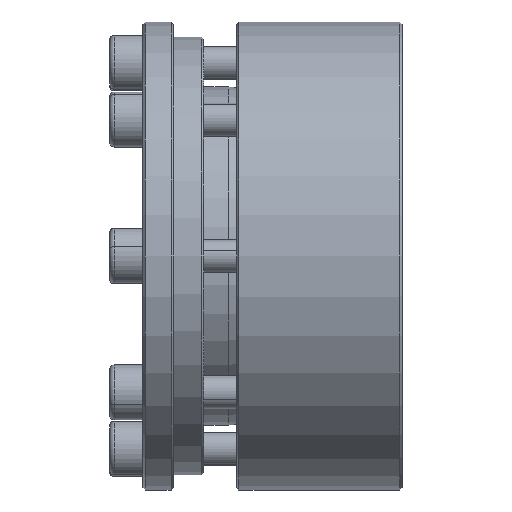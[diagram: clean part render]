
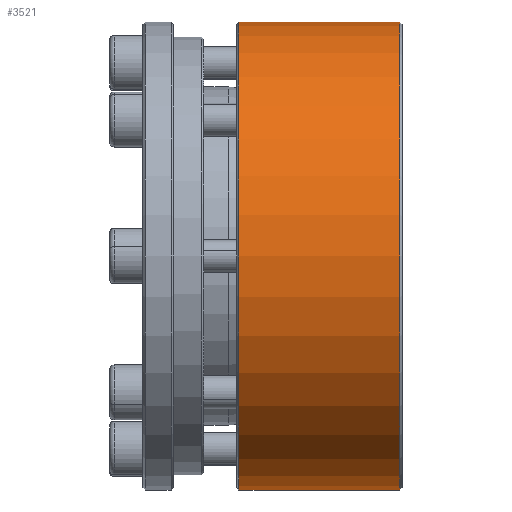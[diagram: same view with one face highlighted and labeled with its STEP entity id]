
A CAD part, front view. The second image highlights one B-rep face of the part: STEP entity #3521.
In plain terms, the highlighted cylindrical face has radius 42.45 mm (diameter 84.9 mm), a partial arc.
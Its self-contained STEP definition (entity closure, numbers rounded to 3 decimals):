
#183 = EDGE_CURVE ( 'NONE', #6408, #2642, #1449, .T. ) ;
#787 = VECTOR ( 'NONE', #8265, 1000. ) ;
#864 = DIRECTION ( 'NONE',  ( -1., 0., 0. ) ) ;
#929 = VERTEX_POINT ( 'NONE', #6592 ) ;
#1186 = ORIENTED_EDGE ( 'NONE', *, *, #3775, .F. ) ;
#1449 = LINE ( 'NONE', #5447, #5458 ) ;
#1734 = ORIENTED_EDGE ( 'NONE', *, *, #183, .T. ) ;
#1768 = FACE_OUTER_BOUND ( 'NONE', #6640, .T. ) ;
#1920 = EDGE_CURVE ( 'NONE', #7134, #6408, #2498, .T. ) ;
#1951 = CARTESIAN_POINT ( 'NONE',  ( -59.166, 26.04, -42.45 ) ) ;
#1975 = CARTESIAN_POINT ( 'NONE',  ( -88.366, 26.04, 0. ) ) ;
#2078 = AXIS2_PLACEMENT_3D ( 'NONE', #2565, #4567, #5889 ) ;
#2275 = CARTESIAN_POINT ( 'NONE',  ( -59.166, 26.04, 42.45 ) ) ;
#2327 = EDGE_CURVE ( 'NONE', #2642, #929, #8521, .T. ) ;
#2498 = CIRCLE ( 'NONE', #5629, 42.45 ) ;
#2565 = CARTESIAN_POINT ( 'NONE',  ( -88.766, 26.04, 0. ) ) ;
#2642 = VERTEX_POINT ( 'NONE', #7892 ) ;
#3521 = ADVANCED_FACE ( 'NONE', ( #1768 ), #5189, .T. ) ;
#3775 = EDGE_CURVE ( 'NONE', #7134, #929, #6257, .T. ) ;
#4567 = DIRECTION ( 'NONE',  ( -1., 0., 0. ) ) ;
#4644 = DIRECTION ( 'NONE',  ( 0., 0., 1. ) ) ;
#5030 = ORIENTED_EDGE ( 'NONE', *, *, #2327, .T. ) ;
#5080 = ORIENTED_EDGE ( 'NONE', *, *, #1920, .T. ) ;
#5189 = CYLINDRICAL_SURFACE ( 'NONE', #2078, 42.45 ) ;
#5447 = CARTESIAN_POINT ( 'NONE',  ( -88.766, 26.04, 42.45 ) ) ;
#5458 = VECTOR ( 'NONE', #864, 1000. ) ;
#5592 = CARTESIAN_POINT ( 'NONE',  ( -88.766, 26.04, -42.45 ) ) ;
#5629 = AXIS2_PLACEMENT_3D ( 'NONE', #7289, #7993, #4644 ) ;
#5889 = DIRECTION ( 'NONE',  ( 0., 0., 1. ) ) ;
#6257 = LINE ( 'NONE', #5592, #787 ) ;
#6408 = VERTEX_POINT ( 'NONE', #2275 ) ;
#6592 = CARTESIAN_POINT ( 'NONE',  ( -88.366, 26.04, -42.45 ) ) ;
#6640 = EDGE_LOOP ( 'NONE', ( #1186, #5080, #1734, #5030 ) ) ;
#6851 = AXIS2_PLACEMENT_3D ( 'NONE', #1975, #8693, #7991 ) ;
#7134 = VERTEX_POINT ( 'NONE', #1951 ) ;
#7289 = CARTESIAN_POINT ( 'NONE',  ( -59.166, 26.04, 0. ) ) ;
#7892 = CARTESIAN_POINT ( 'NONE',  ( -88.366, 26.04, 42.45 ) ) ;
#7991 = DIRECTION ( 'NONE',  ( 0., 0., -1. ) ) ;
#7993 = DIRECTION ( 'NONE',  ( -1., 0., 0. ) ) ;
#8265 = DIRECTION ( 'NONE',  ( -1., 0., 0. ) ) ;
#8521 = CIRCLE ( 'NONE', #6851, 42.45 ) ;
#8693 = DIRECTION ( 'NONE',  ( 1., 0., 0. ) ) ;
